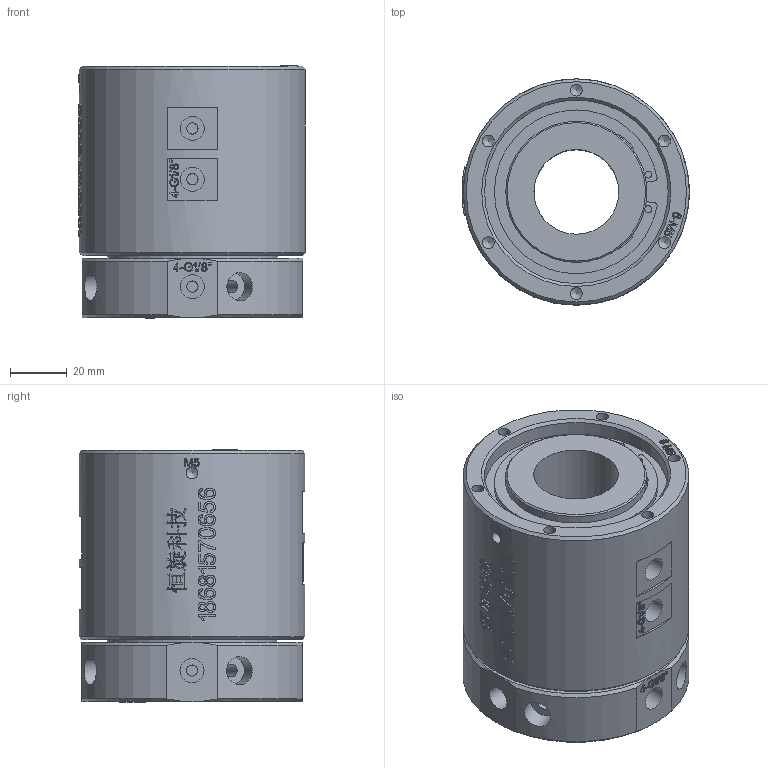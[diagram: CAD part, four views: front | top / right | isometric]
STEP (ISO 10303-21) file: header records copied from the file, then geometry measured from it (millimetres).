
FILE_DESCRIPTION(/* description */ (''),/* implementation_level */ '2;1');
FILE_NAME(/* name */ 'HQ0401-D30-3D模型.stp',/* time_stamp */ '2025-08-06T09:35:13+08:00',/* author */ (''),/* organization */ (''),/* preprocessor_version */ 'ST-DEVELOPER v16.7',/* originating_system */ 'SIEMENS PLM Software NX 12.0',/* authorisation */ '');
FILE_SCHEMA (('AUTOMOTIVE_DESIGN { 1 0 10303 214 3 1 1 1 }'));
Length unit declared in the file: millimetre
Products named in the file (1): Admi3F746D2Ejqav
Bounding box: 80.65 x 80 x 89.4 mm (x, y, z)
Volume: 360572.6 mm3; surface area: 54249.9 mm2
Topology: 1 solids, 1 shells, 1160 faces, 3126 edges, 2081 vertices
Faces by surface type: extrusion 544, plane 441, cylinder 96, bspline 54, cone 25
Full cylindrical faces by diameter (mm): 2.5 x2, 4 x15, 4.1 x4, 4.2 x12, 4.5 x4, 6.8 x4, 8.5 x8, 10 x4, 30 x1, 47 x1, 50 x1, 60 x1, 65 x1, 72 x1, 80 x1
Entity records: 44177 total; most frequent: CARTESIAN_POINT 19808, ORIENTED_EDGE 5982, EDGE_CURVE 2991, DIRECTION 2810, B_SPLINE_CURVE_WITH_KNOTS 2735, VERTEX_POINT 2038, EDGE_LOOP 1363, ADVANCED_FACE 1160
